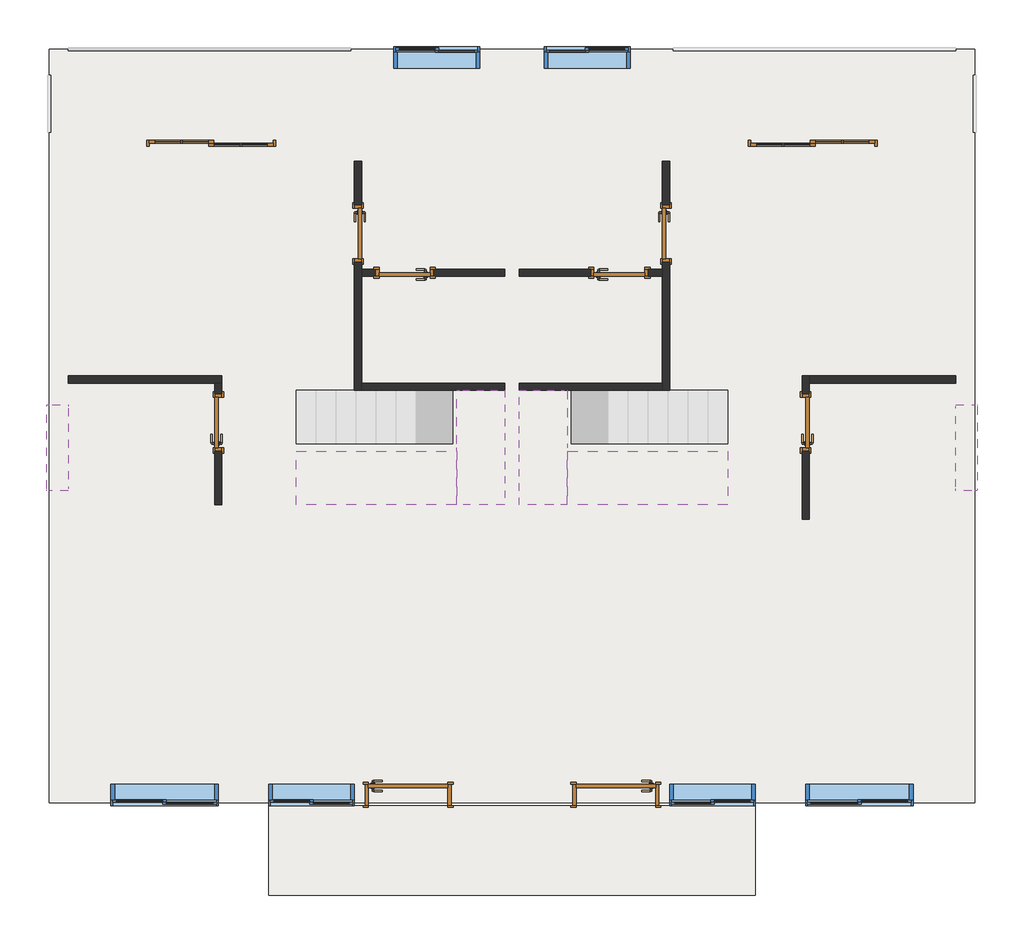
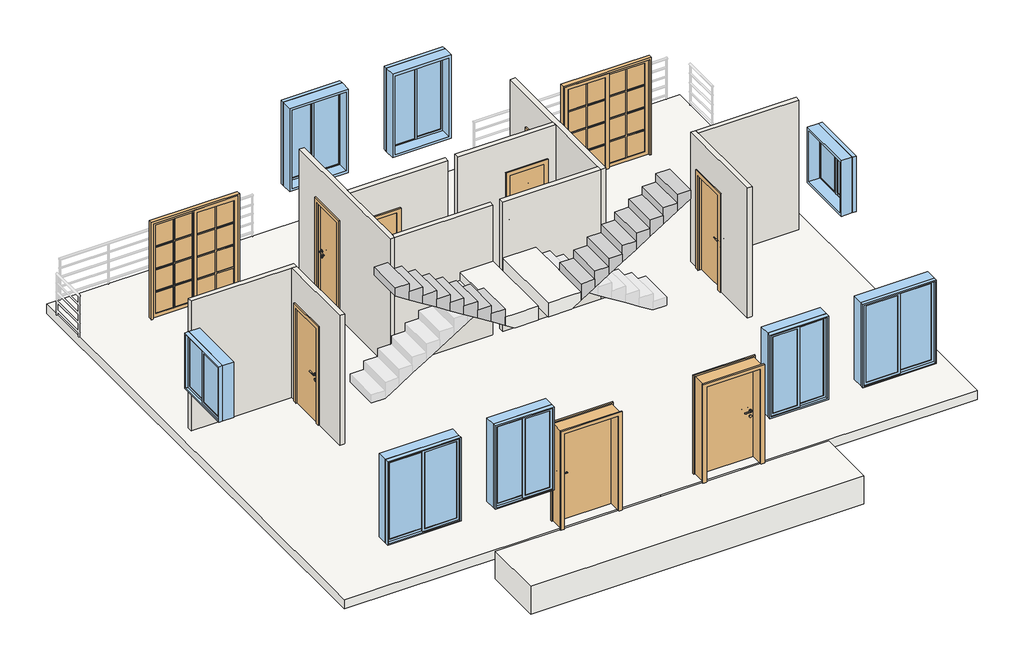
# One storey, part 1 of 2: 10 doors, 8 walls, 8 windows, 4 slabs, 2 stair flights.
"""IFC4 building model written with IfcOpenShell, lengths in millimetres."""

from ifc_helpers import new_model, si_unit, frame, origin, origin_with_axes, place, context, project, spatial, polyline, outline, extrude, faceted_brep, transform, mapped, element, save
from components import m1_9f206538, m1_5c1b1160, m2_dbe33fa1, m2_fd2fcc41, tlm1_f57afe13, tlm1_a8fbea2f, c1_90df00ba, c1_e04ce6eb, c2_d6b350ee, c2_e648b95a, c5_a65849cb, c5_3e3c06b4

model = new_model("IFC4")

# Units and contexts
model_context = context("Model", 3, world=origin())
ifc_project = project(units=[si_unit("LENGTHUNIT", "METRE", prefix="MILLI")], contexts=[model_context])

# Site, building, storey
site = spatial("IfcSite", under=ifc_project)
building = spatial("IfcBuilding", under=site)
storey = spatial("IfcBuildingStorey", under=building, Name="标高 1", Elevation=0.0)

# Doors
placement = place(None, origin())
m1_shape = m1_9f206538(model_context)
element("IfcDoor", 1, ObjectType="单嵌板木门 1 : M1", at=placement, inside=storey, context=model_context, shape_type="MappedRepresentation", body=[
    mapped(m1_shape, transform((-3339.5311174, 2170.4705333, 0.0), x_axis=(-1.0, 0.0, 0.0), y_axis=(0.0, -1.0, 0.0), z_axis=(0.0, 0.0, 1.0))),
])
element("IfcDoor", 2, ObjectType="单嵌板木门 1 : M1", at=placement, inside=storey, context=model_context, shape_type="MappedRepresentation", body=[
    mapped(m1_shape, transform((-3989.5311174, 2720.4705333, 0.0), x_axis=(0.0, -1.0, 0.0), y_axis=(1.0, 0.0, 0.0), z_axis=(0.0, 0.0, 1.0))),
])
element("IfcDoor", 3, ObjectType="单嵌板木门 1 : M1", at=placement, inside=storey, context=model_context, shape_type="MappedRepresentation", body=[
    mapped(m1_shape, transform((-5939.5311174, 80.4705333, 0.0), x_axis=(0.0, 1.0, 0.0), y_axis=(-1.0, 0.0, 0.0), z_axis=(0.0, 0.0, 1.0))),
])
m1_2_shape = m1_5c1b1160(model_context)
element("IfcDoor", 4, ObjectType="单嵌板木门 1 : M1", at=placement, inside=storey, context=model_context, shape_type="MappedRepresentation", body=[
    mapped(m1_2_shape, transform((-339.5311174, 2170.4705333, 0.0), x_axis=(1.0, 0.0, 0.0), y_axis=(0.0, 1.0, 0.0), z_axis=(0.0, 0.0, 1.0))),
])
element("IfcDoor", 5, ObjectType="单嵌板木门 1 : M1", at=placement, inside=storey, context=model_context, shape_type="MappedRepresentation", body=[
    mapped(m1_2_shape, transform((310.4688826, 2720.4705333, 0.0), x_axis=(0.0, -1.0, 0.0), y_axis=(1.0, 0.0, 0.0), z_axis=(0.0, 0.0, 1.0))),
])
element("IfcDoor", 6, ObjectType="单嵌板木门 1 : M1", at=placement, inside=storey, context=model_context, shape_type="MappedRepresentation", body=[
    mapped(m1_2_shape, transform((2260.4688826, 80.4705333, 0.0), x_axis=(0.0, 1.0, 0.0), y_axis=(-1.0, 0.0, 0.0), z_axis=(0.0, 0.0, 1.0))),
])
m2_shape = m2_dbe33fa1(model_context)
element("IfcDoor", 7, ObjectType="单嵌板木门 1 : M2", at=placement, inside=storey, context=model_context, shape_type="MappedRepresentation", body=[
    mapped(m2_shape, transform((-3289.5311174, -5119.5294667, 0.0), x_axis=(1.0, 0.0, 0.0), y_axis=(0.0, 1.0, 0.0), z_axis=(0.0, 0.0, 1.0))),
])
m2_2_shape = m2_fd2fcc41(model_context)
element("IfcDoor", 8, ObjectType="单嵌板木门 1 : M2", at=placement, inside=storey, context=model_context, shape_type="MappedRepresentation", body=[
    mapped(m2_2_shape, transform((-389.5311174, -5119.5294667, 0.0), x_axis=(-1.0, 0.0, 0.0), y_axis=(0.0, -1.0, 0.0), z_axis=(0.0, 0.0, 1.0))),
])
tlm1_shape = tlm1_f57afe13(model_context)
element("IfcDoor", 9, ObjectType="双扇推拉门1 : TLM1", at=placement, inside=storey, context=model_context, shape_type="MappedRepresentation", body=[
    mapped(tlm1_shape, transform((-6039.5311174, 3980.4705333, 0.0), x_axis=(1.0, 0.0, 0.0), y_axis=(0.0, 1.0, 0.0), z_axis=(0.0, 0.0, 1.0))),
])
tlm1_2_shape = tlm1_a8fbea2f(model_context)
element("IfcDoor", 10, ObjectType="双扇推拉门1 : TLM1", at=placement, inside=storey, context=model_context, shape_type="MappedRepresentation", body=[
    mapped(tlm1_2_shape, transform((2360.4688826, 3980.4705333, 0.0), x_axis=(-1.0, 0.0, 0.0), y_axis=(0.0, -1.0, 0.0), z_axis=(0.0, 0.0, 1.0))),
])

# Slabs
element("IfcSlab", 11, ObjectType="常规 - 600mm", at=placement, inside=storey, context=model_context, shape_type="SweptSolid", body=[
    extrude(outline(polyline([(1560.4688826, -5269.5294667), (1560.4688826, -6519.5294667), (-5239.5311174, -6519.5294667), (-5239.5311174, -5269.5294667), (1560.4688826, -5269.5294667)])), frame((0.0, 0.0, -600.0), z_axis=(0.0, 0.0, 1.0), x_axis=(1.0, 0.0, 0.0)), (0.0, 0.0, 1.0), 600.0),
])
element("IfcSlab", 12, ObjectType="200大理石地板", at=placement, inside=storey, context=model_context, shape_type="SweptSolid", body=[
    extrude(outline(polyline([(-8299.5311174, 5290.4705333), (-1839.5311174, 5290.4705333), (4620.4688826, 5290.4705333), (4620.4688826, -5229.5294667), (-1839.5311174, -5229.5294667), (-8299.5311174, -5229.5294667), (-8299.5311174, 5290.4705333)])), frame((0.0, 0.0, -200.0), z_axis=(0.0, 0.0, 1.0), x_axis=(1.0, 0.0, 0.0)), (0.0, 0.0, 1.0), 200.0),
])
element("IfcSlab", 13, ObjectType="300mm 厚度", at=placement, inside=storey, context=model_context, shape_type="Brep", body=[
    faceted_brep([(-2614.5311174, 530.4705333, 1588.2352941), (-2614.5311174, -219.5294667, 1588.2352941), (-2614.5311174, -319.5294667, 1588.2352941), (-2614.5311174, -1069.5294667, 1588.2352941), (-2419.8565517, -1069.5294667, 1588.2352941), (-1939.5311174, -1069.5294667, 1588.2352941), (-1939.5311174, 530.4705333, 1588.2352941), (-2529.2056831, 530.4705333, 1588.2352941), (-1939.5311174, -1069.5294667, 1288.2352941), (-1939.5311174, 530.4705333, 1288.2352941), (-2614.5311174, 530.4705333, 1234.4587599), (-2614.5311174, 530.4705333, 1411.7647059), (-2529.2056831, 530.4705333, 1288.2352941), (-2614.5311174, -1069.5294667, 1410.9293481), (-2419.8565517, -1069.5294667, 1288.2352941), (-2419.8565517, -319.5294667, 1288.2352941), (-2614.5311174, -319.5294667, 1410.9293481), (-2614.5311174, -219.5294667, 1234.4587599), (-2614.5311174, -219.5294667, 1288.2352941), (-2614.5311174, -319.5294667, 1288.2352941), (-2529.2056831, -219.5294667, 1288.2352941)], [[[0, 1, 2, 3, 4, 5, 6, 7]], [[6, 5, 8, 9]], [[10, 11, 0, 7, 6, 9, 12]], [[3, 13, 14, 8, 5, 4]], [[15, 14, 13, 16]], [[1, 0, 11, 10, 17, 18]], [[2, 1, 18, 19, 16]], [[3, 2, 16, 13]], [[15, 19, 18, 20, 12, 9, 8, 14]], [[19, 15, 16]], [[12, 20, 17, 10]], [[20, 18, 17]]]),
])
element("IfcSlab", 14, ObjectType="300mm 厚度", at=placement, inside=storey, context=model_context, shape_type="Brep", body=[
    faceted_brep([(-1064.5311174, -1069.5294667, 1588.2352941), (-1064.5311174, -319.5294667, 1588.2352941), (-1064.5311174, -219.5294667, 1588.2352941), (-1064.5311174, 530.4705333, 1588.2352941), (-1149.8565517, 530.4705333, 1588.2352941), (-1739.5311174, 530.4705333, 1588.2352941), (-1739.5311174, -1069.5294667, 1588.2352941), (-1259.2056831, -1069.5294667, 1588.2352941), (-1739.5311174, 530.4705333, 1288.2352941), (-1739.5311174, -1069.5294667, 1288.2352941), (-1064.5311174, 530.4705333, 1411.7647059), (-1064.5311174, 530.4705333, 1234.4587599), (-1149.8565517, 530.4705333, 1288.2352941), (-1064.5311174, -1069.5294667, 1410.9293481), (-1259.2056831, -1069.5294667, 1288.2352941), (-1259.2056831, -319.5294667, 1288.2352941), (-1064.5311174, -319.5294667, 1410.9293481), (-1064.5311174, -219.5294667, 1288.2352941), (-1064.5311174, -219.5294667, 1234.4587599), (-1064.5311174, -319.5294667, 1288.2352941), (-1149.8565517, -219.5294667, 1288.2352941)], [[[0, 1, 2, 3, 4, 5, 6, 7]], [[6, 5, 8, 9]], [[3, 10, 11, 12, 8, 5, 4]], [[13, 0, 7, 6, 9, 14]], [[14, 15, 16, 13]], [[3, 2, 17, 18, 11, 10]], [[2, 1, 16, 19, 17]], [[1, 0, 13, 16]], [[19, 15, 14, 9, 8, 12, 20, 17]], [[20, 12, 11, 18]], [[17, 20, 18]], [[15, 19, 16]]]),
])

# Stair flights
element("IfcStairFlight", 15, ObjectType="150mm 结构深度 2", at=placement, inside=storey, context=model_context, shape_type="Brep", body=[
    faceted_brep([(-2894.5311174, -1069.5294667, 1764.7058824), (-2614.5311174, -1069.5294667, 1764.7058824), (-2614.5311174, -319.5294667, 1764.7058824), (-2894.5311174, -319.5294667, 1764.7058824), (-2894.5311174, -1069.5294667, 1587.3999363), (-2614.5311174, -1069.5294667, 1410.9293481), (-2614.5311174, -1069.5294667, 1588.2352941), (-2614.5311174, -319.5294667, 1410.9293481), (-2894.5311174, -319.5294667, 1587.3999363), (-3174.5311174, -1069.5294667, 1941.1764706), (-2894.5311174, -1069.5294667, 1941.1764706), (-2894.5311174, -319.5294667, 1941.1764706), (-3174.5311174, -319.5294667, 1941.1764706), (-3174.5311174, -1069.5294667, 1763.8705246), (-3174.5311174, -319.5294667, 1763.8705246), (-3454.5311174, -1069.5294667, 2117.6470588), (-3174.5311174, -1069.5294667, 2117.6470588), (-3174.5311174, -319.5294667, 2117.6470588), (-3454.5311174, -319.5294667, 2117.6470588), (-3454.5311174, -1069.5294667, 1940.3411128), (-3454.5311174, -319.5294667, 1940.3411128), (-3734.5311174, -1069.5294667, 2294.1176471), (-3454.5311174, -1069.5294667, 2294.1176471), (-3454.5311174, -319.5294667, 2294.1176471), (-3734.5311174, -319.5294667, 2294.1176471), (-3734.5311174, -1069.5294667, 2116.8117011), (-3734.5311174, -319.5294667, 2116.8117011), (-4014.5311174, -1069.5294667, 2470.5882353), (-3734.5311174, -1069.5294667, 2470.5882353), (-3734.5311174, -319.5294667, 2470.5882353), (-4014.5311174, -319.5294667, 2470.5882353), (-4014.5311174, -1069.5294667, 2293.2822893), (-4014.5311174, -319.5294667, 2293.2822893), (-4294.5311174, -1069.5294667, 2647.0588235), (-4014.5311174, -1069.5294667, 2647.0588235), (-4014.5311174, -319.5294667, 2647.0588235), (-4294.5311174, -319.5294667, 2647.0588235), (-4294.5311174, -1069.5294667, 2469.7528775), (-4294.5311174, -319.5294667, 2469.7528775), (-4574.5311174, -1069.5294667, 2823.5294118), (-4294.5311174, -1069.5294667, 2823.5294118), (-4294.5311174, -319.5294667, 2823.5294118), (-4574.5311174, -319.5294667, 2823.5294118), (-4574.5311174, -1069.5294667, 2646.2234658), (-4574.5311174, -319.5294667, 2646.2234658), (-4854.5311174, -1069.5294667, 2822.694054), (-4854.5311174, -319.5294667, 2822.694054), (-4854.5311174, -1069.5294667, 3000.0), (-4574.5311174, -1069.5294667, 3000.0), (-4574.5311174, -319.5294667, 3000.0), (-4854.5311174, -319.5294667, 3000.0)], [[[0, 1, 2, 3]], [[1, 0, 4, 5, 6]], [[2, 1, 6, 5, 7]], [[3, 2, 7, 8]], [[9, 10, 11, 12]], [[10, 9, 13, 4, 0]], [[11, 10, 0, 3]], [[12, 11, 3, 8, 14]], [[15, 16, 17, 18]], [[16, 15, 19, 13, 9]], [[17, 16, 9, 12]], [[18, 17, 12, 14, 20]], [[21, 22, 23, 24]], [[22, 21, 25, 19, 15]], [[23, 22, 15, 18]], [[24, 23, 18, 20, 26]], [[27, 28, 29, 30]], [[28, 27, 31, 25, 21]], [[29, 28, 21, 24]], [[30, 29, 24, 26, 32]], [[33, 34, 35, 36]], [[34, 33, 37, 31, 27]], [[35, 34, 27, 30]], [[36, 35, 30, 32, 38]], [[39, 40, 41, 42]], [[40, 39, 43, 37, 33]], [[41, 40, 33, 36]], [[42, 41, 36, 38, 44]], [[5, 4, 13, 19, 25, 31, 37, 43, 45, 46, 44, 38, 32, 26, 20, 14, 8, 7]], [[47, 48, 49, 50]], [[48, 47, 45, 43, 39]], [[49, 48, 39, 42]], [[50, 49, 42, 44, 46]], [[47, 50, 46, 45]]]),
])
element("IfcStairFlight", 16, ObjectType="150mm 结构深度 2", at=placement, inside=storey, context=model_context, shape_type="Brep", body=[
    faceted_brep([(-784.5311174, -319.5294667, 1764.7058824), (-1064.5311174, -319.5294667, 1764.7058824), (-1064.5311174, -1069.5294667, 1764.7058824), (-784.5311174, -1069.5294667, 1764.7058824), (-784.5311174, -319.5294667, 1587.3999363), (-1064.5311174, -319.5294667, 1410.9293481), (-1064.5311174, -1069.5294667, 1410.9293481), (-1064.5311174, -1069.5294667, 1588.2352941), (-784.5311174, -1069.5294667, 1587.3999363), (-504.5311174, -319.5294667, 1941.1764706), (-784.5311174, -319.5294667, 1941.1764706), (-784.5311174, -1069.5294667, 1941.1764706), (-504.5311174, -1069.5294667, 1941.1764706), (-504.5311174, -319.5294667, 1763.8705246), (-504.5311174, -1069.5294667, 1763.8705246), (-224.5311174, -319.5294667, 2117.6470588), (-504.5311174, -319.5294667, 2117.6470588), (-504.5311174, -1069.5294667, 2117.6470588), (-224.5311174, -1069.5294667, 2117.6470588), (-224.5311174, -319.5294667, 1940.3411128), (-224.5311174, -1069.5294667, 1940.3411128), (55.4688826, -319.5294667, 2294.1176471), (-224.5311174, -319.5294667, 2294.1176471), (-224.5311174, -1069.5294667, 2294.1176471), (55.4688826, -1069.5294667, 2294.1176471), (55.4688826, -319.5294667, 2116.8117011), (55.4688826, -1069.5294667, 2116.8117011), (335.4688826, -319.5294667, 2470.5882353), (55.4688826, -319.5294667, 2470.5882353), (55.4688826, -1069.5294667, 2470.5882353), (335.4688826, -1069.5294667, 2470.5882353), (335.4688826, -319.5294667, 2293.2822893), (335.4688826, -1069.5294667, 2293.2822893), (615.4688826, -319.5294667, 2647.0588235), (335.4688826, -319.5294667, 2647.0588235), (335.4688826, -1069.5294667, 2647.0588235), (615.4688826, -1069.5294667, 2647.0588235), (615.4688826, -319.5294667, 2469.7528775), (615.4688826, -1069.5294667, 2469.7528775), (895.4688826, -319.5294667, 2823.5294118), (615.4688826, -319.5294667, 2823.5294118), (615.4688826, -1069.5294667, 2823.5294118), (895.4688826, -1069.5294667, 2823.5294118), (895.4688826, -319.5294667, 2646.2234658), (895.4688826, -1069.5294667, 2646.2234658), (1175.4688826, -319.5294667, 2822.694054), (1175.4688826, -1069.5294667, 2822.694054), (1175.4688826, -319.5294667, 3000.0), (895.4688826, -319.5294667, 3000.0), (895.4688826, -1069.5294667, 3000.0), (1175.4688826, -1069.5294667, 3000.0)], [[[0, 1, 2, 3]], [[1, 0, 4, 5]], [[2, 1, 5, 6, 7]], [[3, 2, 7, 6, 8]], [[9, 10, 11, 12]], [[10, 9, 13, 4, 0]], [[11, 10, 0, 3]], [[12, 11, 3, 8, 14]], [[15, 16, 17, 18]], [[16, 15, 19, 13, 9]], [[17, 16, 9, 12]], [[18, 17, 12, 14, 20]], [[21, 22, 23, 24]], [[22, 21, 25, 19, 15]], [[23, 22, 15, 18]], [[24, 23, 18, 20, 26]], [[27, 28, 29, 30]], [[28, 27, 31, 25, 21]], [[29, 28, 21, 24]], [[30, 29, 24, 26, 32]], [[33, 34, 35, 36]], [[34, 33, 37, 31, 27]], [[35, 34, 27, 30]], [[36, 35, 30, 32, 38]], [[39, 40, 41, 42]], [[40, 39, 43, 37, 33]], [[41, 40, 33, 36]], [[42, 41, 36, 38, 44]], [[5, 4, 13, 19, 25, 31, 37, 43, 45, 46, 44, 38, 32, 26, 20, 14, 8, 6]], [[47, 48, 49, 50]], [[48, 47, 45, 43, 39]], [[49, 48, 39, 42]], [[50, 49, 42, 44, 46]], [[47, 50, 46, 45]]]),
])

# Walls
element("IfcWall", 17, ObjectType="100内墙", at=placement, inside=storey, context=model_context, shape_type="Brep", body=[
    faceted_brep([(-8039.5311174, 630.4705333, 0.0), (-5989.5311174, 630.4705333, 0.0), (-5889.5311174, 630.4705333, 0.0), (-5889.5311174, 630.4705333, 2800.0), (-5989.5311174, 630.4705333, 2800.0), (-8039.5311174, 630.4705333, 2800.0), (-5889.5311174, 730.4705333, 0.0), (-8039.5311174, 730.4705333, 0.0), (-8039.5311174, 730.4705333, 2800.0), (-5889.5311174, 730.4705333, 2800.0)], [[[0, 1, 2, 3, 4, 5]], [[6, 7, 8, 9]], [[2, 1, 0, 7, 6]], [[7, 0, 5, 8]], [[2, 6, 9, 3]], [[5, 4, 3, 9, 8]]]),
])
element("IfcWall", 18, ObjectType="100内墙", at=placement, inside=storey, context=model_context, shape_type="Brep", body=[
    faceted_brep([(-3939.5311174, 530.4705333, 0.0), (-3939.5311174, 630.4705333, 0.0), (-3939.5311174, 2120.4705333, 0.0), (-3939.5311174, 2220.4705333, 0.0), (-3939.5311174, 2320.4705333, 0.0), (-3939.5311174, 2320.4705333, 2100.0), (-3939.5311174, 3120.4705333, 2100.0), (-3939.5311174, 3120.4705333, 0.0), (-3939.5311174, 3730.4705333, 0.0), (-3939.5311174, 3730.4705333, 2800.0), (-3939.5311174, 2220.4705333, 2800.0), (-3939.5311174, 2120.4705333, 2800.0), (-3939.5311174, 630.4705333, 2800.0), (-3939.5311174, 530.4705333, 2800.0), (-4039.5311174, 2320.4705333, 0.0), (-4039.5311174, 530.4705333, 0.0), (-4039.5311174, 530.4705333, 2800.0), (-4039.5311174, 3730.4705333, 2800.0), (-4039.5311174, 3730.4705333, 0.0), (-4039.5311174, 3120.4705333, 0.0), (-4039.5311174, 3120.4705333, 2100.0), (-4039.5311174, 2320.4705333, 2100.0)], [[[0, 1, 2, 3, 4, 5, 6, 7, 8, 9, 10, 11, 12, 13]], [[14, 15, 16, 17, 18, 19, 20, 21]], [[0, 15, 14, 4, 3, 2, 1]], [[7, 19, 18, 8]], [[15, 0, 13, 16]], [[21, 5, 4, 14]], [[5, 21, 20, 6]], [[6, 20, 19, 7]], [[8, 18, 17, 9]], [[13, 12, 11, 10, 9, 17, 16]]]),
])
element("IfcWall", 19, ObjectType="100内墙", at=placement, inside=storey, context=model_context, shape_type="Brep", body=[
    faceted_brep([(360.4688826, 530.4705333, 0.0), (360.4688826, 2320.4705333, 0.0), (360.4688826, 2320.4705333, 2100.0), (360.4688826, 3120.4705333, 2100.0), (360.4688826, 3120.4705333, 0.0), (360.4688826, 3730.4705333, 0.0), (360.4688826, 3730.4705333, 2800.0), (360.4688826, 530.4705333, 2800.0), (260.4688826, 2320.4705333, 0.0), (260.4688826, 2220.4705333, 0.0), (260.4688826, 2120.4705333, 0.0), (260.4688826, 630.4705333, 0.0), (260.4688826, 530.4705333, 0.0), (260.4688826, 530.4705333, 2800.0), (260.4688826, 630.4705333, 2800.0), (260.4688826, 2120.4705333, 2800.0), (260.4688826, 2220.4705333, 2800.0), (260.4688826, 3730.4705333, 2800.0), (260.4688826, 3730.4705333, 0.0), (260.4688826, 3120.4705333, 0.0), (260.4688826, 3120.4705333, 2100.0), (260.4688826, 2320.4705333, 2100.0)], [[[0, 1, 2, 3, 4, 5, 6, 7]], [[8, 9, 10, 11, 12, 13, 14, 15, 16, 17, 18, 19, 20, 21]], [[0, 12, 11, 10, 9, 8, 1]], [[4, 19, 18, 5]], [[12, 0, 7, 13]], [[21, 2, 1, 8]], [[2, 21, 20, 3]], [[3, 20, 19, 4]], [[5, 18, 17, 6]], [[7, 6, 17, 16, 15, 14, 13]]]),
])
element("IfcWall", 20, ObjectType="100内墙", at=placement, inside=storey, context=model_context, shape_type="SweptSolid", body=[
    extrude(outline(polyline([(0.0, -3939.5311174), (0.0, -3739.5311174), (2100.0, -3739.5311174), (2100.0, -2939.5311174), (0.0, -2939.5311174), (0.0, -1939.5311174), (2800.0, -1939.5311174), (2800.0, -3939.5311174), (0.0, -3939.5311174)])), frame((0.0, 2120.4705333, 0.0), z_axis=(0.0, 1.0, 0.0), x_axis=(0.0, 0.0, 1.0)), (0.0, 0.0, 1.0), 100.0),
    extrude(outline(polyline([(0.0, 60.4688826), (0.0, 260.4688826), (2800.0, 260.4688826), (2800.0, -1739.5311174), (0.0, -1739.5311174), (0.0, -739.5311174), (2100.0, -739.5311174), (2100.0, 60.4688826), (0.0, 60.4688826)])), frame((0.0, 2120.4705333, 0.0), z_axis=(0.0, 1.0, 0.0), x_axis=(0.0, 0.0, 1.0)), (0.0, 0.0, 1.0), 100.0),
])
element("IfcWall", 21, ObjectType="100内墙", at=placement, inside=storey, context=model_context, shape_type="SweptSolid", body=[
    extrude(outline(polyline([(630.4705333, 0.0), (480.4705333, 0.0), (480.4705333, 2100.0), (-319.5294667, 2100.0), (-319.5294667, 0.0), (-1069.5294667, 0.0), (-1069.5294667, 2800.0), (630.4705333, 2800.0), (630.4705333, 0.0)])), frame((-5989.5311174, 0.0, 0.0), z_axis=(1.0, 0.0, 0.0), x_axis=(0.0, 1.0, 0.0)), (0.0, 0.0, 1.0), 100.0),
])
element("IfcWall", 22, ObjectType="100内墙", at=placement, inside=storey, context=model_context, shape_type="Brep", body=[
    faceted_brep([(2210.4688826, 730.4705333, 0.0), (2210.4688826, 480.4705333, 0.0), (2210.4688826, 480.4705333, 2100.0), (2210.4688826, -319.5294667, 2100.0), (2210.4688826, -319.5294667, 0.0), (2210.4688826, -1269.5294667, 0.0), (2210.4688826, -1269.5294667, 2800.0), (2210.4688826, 730.4705333, 2800.0), (2310.4688826, 480.4705333, 0.0), (2310.4688826, 630.4705333, 0.0), (2310.4688826, 730.4705333, 0.0), (2310.4688826, 730.4705333, 2800.0), (2310.4688826, -1069.5294667, 2800.0), (2310.4688826, -1269.5294667, 2800.0), (2310.4688826, -1269.5294667, 0.0), (2310.4688826, -319.5294667, 0.0), (2310.4688826, -319.5294667, 2100.0), (2310.4688826, 480.4705333, 2100.0)], [[[0, 1, 2, 3, 4, 5, 6, 7]], [[8, 9, 10, 11, 12, 13, 14, 15, 16, 17]], [[0, 10, 9, 8, 1]], [[14, 5, 4, 15]], [[10, 0, 7, 11]], [[5, 14, 13, 6]], [[17, 2, 1, 8]], [[2, 17, 16, 3]], [[3, 16, 15, 4]], [[7, 6, 13, 12, 11]]]),
])
element("IfcWall", 23, ObjectType="100内墙", at=placement, inside=storey, context=model_context, shape_type="SweptSolid", body=[
    extrude(outline(polyline([(260.4688826, 530.4705333), (-1739.5311174, 530.4705333), (-1739.5311174, 630.4705333), (260.4688826, 630.4705333), (260.4688826, 530.4705333)])), origin_with_axes(), (0.0, 0.0, 1.0), 2800.0),
    extrude(outline(polyline([(-1939.5311174, 530.4705333), (-3939.5311174, 530.4705333), (-3939.5311174, 630.4705333), (-1939.5311174, 630.4705333), (-1939.5311174, 530.4705333)])), origin_with_axes(), (0.0, 0.0, 1.0), 2800.0),
])
element("IfcWall", 24, ObjectType="100内墙", at=placement, inside=storey, context=model_context, shape_type="SweptSolid", body=[
    extrude(outline(polyline([(4360.4688826, 630.4705333), (2310.4688826, 630.4705333), (2310.4688826, 730.4705333), (4360.4688826, 730.4705333), (4360.4688826, 630.4705333)])), origin_with_axes(), (0.0, 0.0, 1.0), 2800.0),
])

# Windows
c1_shape = c1_90df00ba(model_context)
element("IfcWindow", 25, ObjectType="推拉窗6 : C1", at=placement, inside=storey, context=model_context, shape_type="MappedRepresentation", body=[
    mapped(c1_shape, transform((-6680.0061174, -5186.4029042, 0.0), x_axis=(-1.0, 0.0, 0.0), y_axis=(0.0, -1.0, 0.0), z_axis=(0.0, 0.0, 1.0))),
])
c1_2_shape = c1_e04ce6eb(model_context)
element("IfcWindow", 26, ObjectType="推拉窗6 : C1", at=placement, inside=storey, context=model_context, shape_type="MappedRepresentation", body=[
    mapped(c1_2_shape, transform((3000.9438826, -5186.4029042, 0.0), x_axis=(1.0, 0.0, 0.0), y_axis=(0.0, 1.0, 0.0), z_axis=(0.0, 0.0, 1.0))),
])
c2_shape = c2_d6b350ee(model_context)
element("IfcWindow", 27, ObjectType="推拉窗6 : C2", at=placement, inside=storey, context=model_context, shape_type="MappedRepresentation", body=[
    mapped(c2_shape, transform((-2899.0561174, 5247.3439708, 0.0), x_axis=(1.0, 0.0, 0.0), y_axis=(0.0, 1.0, 0.0), z_axis=(0.0, 0.0, 1.0))),
])
element("IfcWindow", 28, ObjectType="推拉窗6 : C2", at=placement, inside=storey, context=model_context, shape_type="MappedRepresentation", body=[
    mapped(c2_shape, transform((-4630.0061174, -5186.4029042, 0.0), x_axis=(-1.0, 0.0, 0.0), y_axis=(0.0, -1.0, 0.0), z_axis=(0.0, 0.0, 1.0))),
])
c2_2_shape = c2_e648b95a(model_context)
element("IfcWindow", 29, ObjectType="推拉窗6 : C2", at=placement, inside=storey, context=model_context, shape_type="MappedRepresentation", body=[
    mapped(c2_2_shape, transform((-780.0061174, 5247.3439708, 0.0), x_axis=(-1.0, 0.0, 0.0), y_axis=(0.0, -1.0, 0.0), z_axis=(0.0, 0.0, 1.0))),
])
element("IfcWindow", 30, ObjectType="推拉窗6 : C2", at=placement, inside=storey, context=model_context, shape_type="MappedRepresentation", body=[
    mapped(c2_2_shape, transform((950.9438826, -5186.4029042, 0.0), x_axis=(1.0, 0.0, 0.0), y_axis=(0.0, 1.0, 0.0), z_axis=(0.0, 0.0, 1.0))),
])
c5_shape = c5_a65849cb(model_context)
element("IfcWindow", 31, ObjectType="推拉窗6 : C5", at=placement, inside=storey, context=model_context, shape_type="MappedRepresentation", body=[
    mapped(c5_shape, transform((-8256.4045549, -279.0544667, 300.0), x_axis=(0.0, 1.0, 0.0), y_axis=(-1.0, 0.0, 0.0), z_axis=(0.0, 0.0, 1.0))),
])
c5_2_shape = c5_3e3c06b4(model_context)
element("IfcWindow", 32, ObjectType="推拉窗6 : C5", at=placement, inside=storey, context=model_context, shape_type="MappedRepresentation", body=[
    mapped(c5_2_shape, transform((4577.3423201, -279.0544667, 300.0), x_axis=(0.0, 1.0, 0.0), y_axis=(-1.0, 0.0, 0.0), z_axis=(0.0, 0.0, 1.0))),
])

save(model, "model.ifc")
